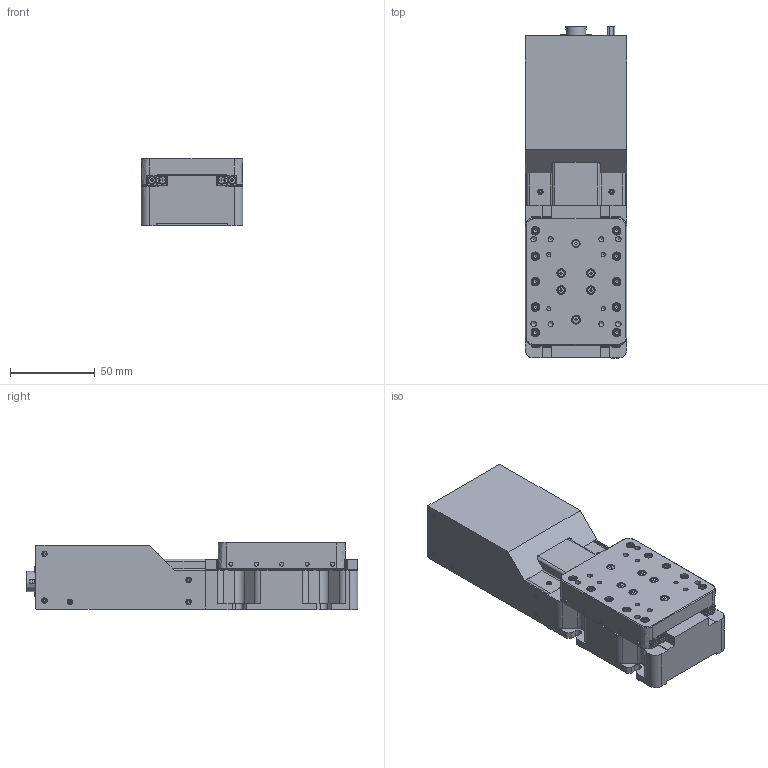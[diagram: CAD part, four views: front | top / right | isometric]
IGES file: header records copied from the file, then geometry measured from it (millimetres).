
Global section: file name: NFS60-20PX_IGS; native system: Autodesk Inventor 2021; preprocessor: unknown; author: t.kamimura; date: 20220526.140051; units: millimetre
Bounding box: 60 x 195.86 x 40 mm (x, y, z)
Volume: 164132.8 mm3; surface area: 118726.3 mm2
Topology: 5 solids, 9 shells, 2474 faces, 6664 edges, 4388 vertices
Faces by surface type: bspline 2474
